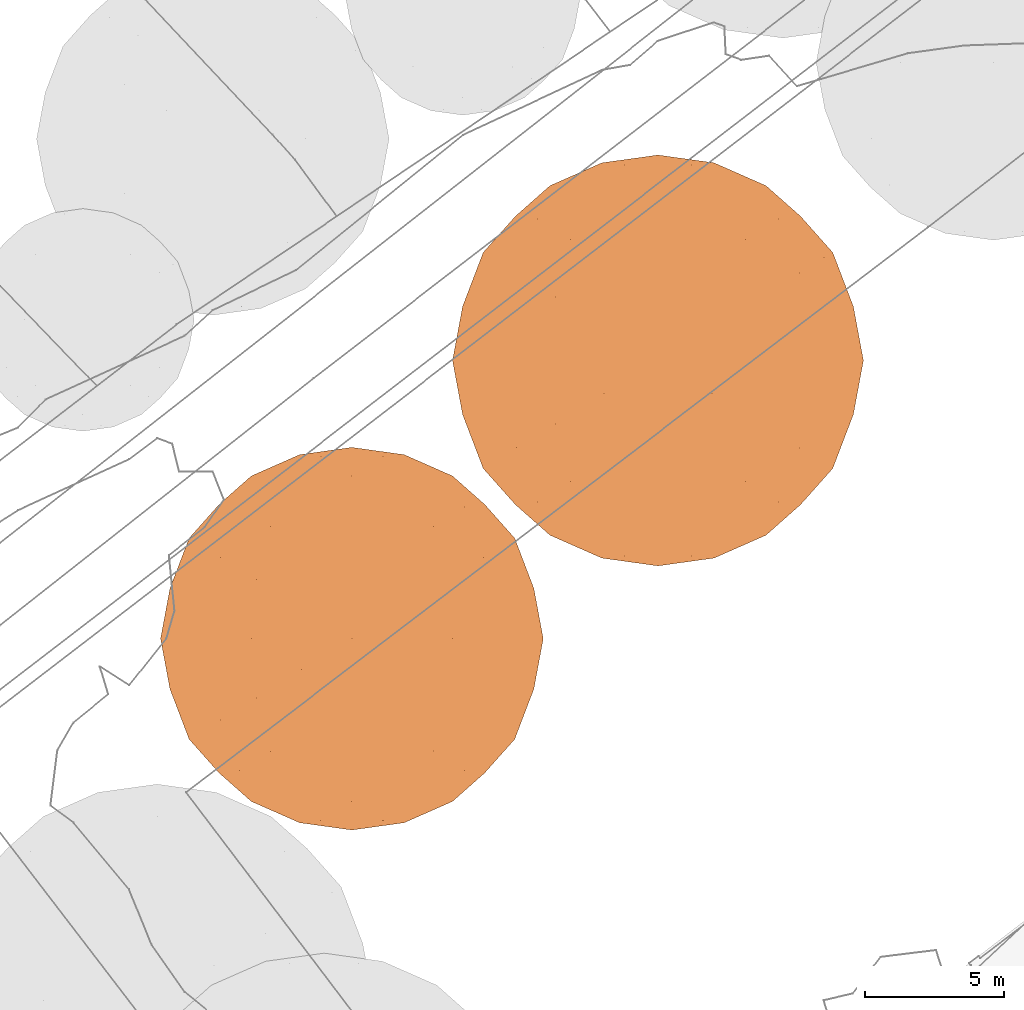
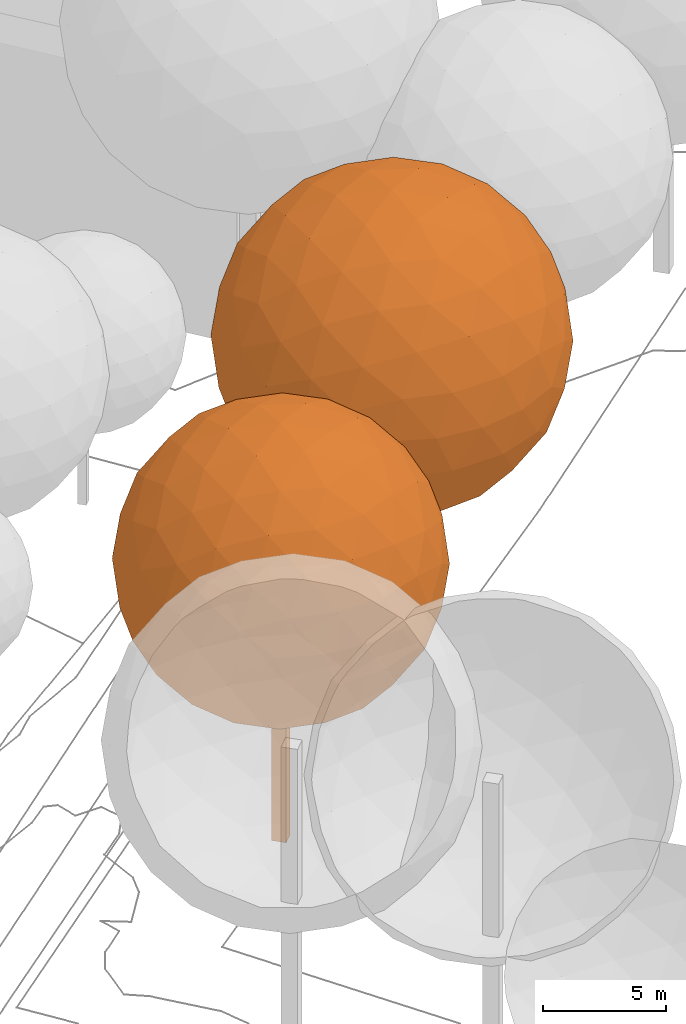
# Not in any storey, part 294 of 494: 2 proxies.
"""IFC2X3 model written with IfcOpenShell, lengths in metres."""

from ifc_helpers import new_model, si_unit, frame, origin_with_axes, place, context, subcontext, project, faceted_brep, element, save


model = new_model("IFC2X3")

# Units and contexts
model_context = context("Model", 3, precision=1e-05, world=origin_with_axes())
body_context = subcontext(model_context, "Body", "Model", "MODEL_VIEW")
ifc_project = project(units=[si_unit("AREAUNIT", "SQUARE_METRE"), si_unit("LENGTHUNIT", "METRE")], contexts=[model_context])

# Proxies
proxy_1_placement = place(None, frame((209.6777320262, 139.1707389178, 533.5631111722), z_axis=(0.0, 0.0, 1.0), x_axis=(1.0, 0.0, 0.0)))
element("IfcBuildingElementProxy", 1, at=proxy_1_placement, Name="Tree TR4 CD147", ObjectType="NOTDEFINED", context=body_context, shape_type="Brep", body=[
    faceted_brep([(0.0, 0.4700776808, 0.0), (0.4700776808, 0.0, 0.0), (0.0, -0.4700776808, 0.0), (-0.4700776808, 0.0, 0.0), (0.0, -0.4700776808, 14.7679258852), (0.4700776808, 0.0, 14.7679258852), (0.0, 0.4700776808, 14.7679258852), (-0.4700776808, 0.0, 14.7679258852)], [[[0, 1, 2]], [[2, 3, 0]], [[4, 5, 6]], [[6, 7, 4]], [[4, 7, 2]], [[2, 7, 3]], [[7, 6, 3]], [[3, 6, 0]], [[5, 4, 1]], [[1, 4, 2]], [[6, 5, 0]], [[0, 5, 1]]]),
    faceted_brep([(-3.8819790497, 6.281174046, 14.7679258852), (-5.1228493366, 5.1838849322, 15.9539530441), (-3.2038170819, 6.3699120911, 16.6869581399), (-5.9737515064, 3.6919814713, 17.0496959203), (-4.3401845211, 5.0815765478, 17.9085129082), (-2.2817700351, 5.9737515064, 18.4599073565), (-6.3699120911, 1.9190322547, 17.9717429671), (-5.0815765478, 3.140587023, 19.1081104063), (-6.281174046, 0.0, 18.6499049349), (-5.1838849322, 1.1860271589, 19.8907752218), (-3.6919814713, 2.2817700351, 20.7416773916), (-3.140587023, 4.3401845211, 19.849502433), (-1.1860271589, 5.1228493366, 19.9518108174), (-1.9190322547, 3.2038170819, 21.1378379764), (0.0, 3.8819790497, 21.0490999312), (-2.0177899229, 7.1029171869, 14.7679258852), (-1.1995974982, 7.0225660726, 16.70891541), (0.0, 7.3839629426, 14.7679258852), (0.0, 6.281174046, 18.6499049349), (1.1860271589, 5.1228493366, 19.9518108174), (2.2817700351, 5.9737515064, 18.4599073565), (1.1995974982, 7.0225660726, 16.70891541), (2.0177899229, 7.1029171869, 14.7679258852), (3.2038170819, 6.3699120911, 16.6869581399), (3.8819790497, 6.281174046, 14.7679258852), (-3.2038170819, 6.3699120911, 12.8488936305), (-1.1995974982, 7.0225660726, 12.8269363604), (-2.2817700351, 5.9737515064, 11.0759444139), (1.1995974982, 7.0225660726, 12.8269363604), (3.2038170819, 6.3699120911, 12.8488936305), (2.2817700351, 5.9737515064, 11.0759444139), (0.0, 6.281174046, 10.8859468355), (-1.1860271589, 5.1228493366, 9.584040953), (1.1860271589, 5.1228493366, 9.584040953), (0.0, 3.8819790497, 8.4867518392), (-5.1228493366, 5.1838849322, 13.5818987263), (-4.3401845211, 5.0815765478, 11.6273388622), (-5.9737515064, 3.6919814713, 12.4861558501), (-3.140587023, 4.3401845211, 9.6863493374), (-1.9190322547, 3.2038170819, 8.3980137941), (-3.6919814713, 2.2817700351, 8.7941743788), (-5.0815765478, 3.140587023, 10.4277413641), (-6.3699120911, 1.9190322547, 11.5641088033), (-5.1838849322, 1.1860271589, 9.6450765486), (-6.281174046, 0.0, 10.8859468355), (-6.281174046, 3.8819790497, 14.7679258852), (-7.0225660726, 1.9409895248, 13.5683283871), (-7.1029171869, 0.0, 12.7501359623), (-7.3839629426, 0.0, 14.7679258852), (-7.0225660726, 1.9409895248, 15.9675233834), (-7.1029171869, 0.0, 16.7857158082), (5.1228493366, 5.1838849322, 15.9539530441), (4.3401845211, 5.0815765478, 17.9085129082), (5.9737515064, 3.6919814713, 17.0496959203), (3.140587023, 4.3401845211, 19.849502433), (1.9190322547, 3.2038170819, 21.1378379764), (3.6919814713, 2.2817700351, 20.7416773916), (5.0815765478, 3.140587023, 19.1081104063), (6.3699120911, 1.9190322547, 17.9717429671), (5.1838849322, 1.1860271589, 19.8907752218), (6.281174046, 0.0, 18.6499049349), (0.0, 2.0177899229, 21.8708430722), (-1.9409895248, 1.1995974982, 21.7904919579), (0.0, 0.0, 22.1518888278), (-3.8819790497, 0.0, 21.0490999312), (-5.1838849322, -1.1860271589, 19.8907752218), (-3.6919814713, -2.2817700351, 20.7416773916), (-1.9409895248, -1.1995974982, 21.7904919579), (0.0, -2.0177899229, 21.8708430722), (-1.9190322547, -3.2038170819, 21.1378379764), (0.0, -3.8819790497, 21.0490999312), (-6.3699120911, -1.9190322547, 17.9717429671), (-7.0225660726, -1.9409895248, 15.9675233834), (-5.9737515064, -3.6919814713, 17.0496959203), (-7.0225660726, -1.9409895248, 13.5683283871), (-6.3699120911, -1.9190322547, 11.5641088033), (-5.9737515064, -3.6919814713, 12.4861558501), (-6.281174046, -3.8819790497, 14.7679258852), (-5.1228493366, -5.1838849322, 15.9539530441), (-5.1228493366, -5.1838849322, 13.5818987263), (-3.8819790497, -6.281174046, 14.7679258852), (-5.1838849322, -1.1860271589, 9.6450765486), (-3.8819790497, 0.0, 8.4867518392), (-3.6919814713, -2.2817700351, 8.7941743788), (-1.9409895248, 1.1995974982, 7.7453598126), (0.0, 2.0177899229, 7.6650086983), (0.0, 0.0, 7.3839629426), (-1.9409895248, -1.1995974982, 7.7453598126), (-1.9190322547, -3.2038170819, 8.3980137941), (0.0, -2.0177899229, 7.6650086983), (0.0, -3.8819790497, 8.4867518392), (1.9190322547, 3.2038170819, 8.3980137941), (3.140587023, 4.3401845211, 9.6863493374), (3.6919814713, 2.2817700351, 8.7941743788), (4.3401845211, 5.0815765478, 11.6273388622), (5.1228493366, 5.1838849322, 13.5818987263), (5.9737515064, 3.6919814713, 12.4861558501), (5.0815765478, 3.140587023, 10.4277413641), (5.1838849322, 1.1860271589, 9.6450765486), (6.3699120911, 1.9190322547, 11.5641088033), (6.281174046, 0.0, 10.8859468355), (3.8819790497, -6.281174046, 14.7679258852), (5.1228493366, -5.1838849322, 15.9539530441), (3.2038170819, -6.3699120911, 16.6869581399), (5.9737515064, -3.6919814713, 17.0496959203), (4.3401845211, -5.0815765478, 17.9085129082), (2.2817700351, -5.9737515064, 18.4599073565), (6.3699120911, -1.9190322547, 17.9717429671), (5.0815765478, -3.140587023, 19.1081104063), (5.1838849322, -1.1860271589, 19.8907752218), (3.6919814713, -2.2817700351, 20.7416773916), (3.140587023, -4.3401845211, 19.849502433), (1.1860271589, -5.1228493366, 19.9518108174), (1.9190322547, -3.2038170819, 21.1378379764), (2.0177899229, -7.1029171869, 14.7679258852), (1.1995974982, -7.0225660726, 16.70891541), (0.0, -7.3839629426, 14.7679258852), (0.0, -6.281174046, 18.6499049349), (-1.1860271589, -5.1228493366, 19.9518108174), (-2.2817700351, -5.9737515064, 18.4599073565), (-1.1995974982, -7.0225660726, 16.70891541), (-2.0177899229, -7.1029171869, 14.7679258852), (-3.2038170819, -6.3699120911, 16.6869581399), (3.2038170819, -6.3699120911, 12.8488936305), (1.1995974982, -7.0225660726, 12.8269363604), (2.2817700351, -5.9737515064, 11.0759444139), (-1.1995974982, -7.0225660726, 12.8269363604), (-3.2038170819, -6.3699120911, 12.8488936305), (-2.2817700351, -5.9737515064, 11.0759444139), (0.0, -6.281174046, 10.8859468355), (1.1860271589, -5.1228493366, 9.584040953), (-1.1860271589, -5.1228493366, 9.584040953), (5.1228493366, -5.1838849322, 13.5818987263), (4.3401845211, -5.0815765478, 11.6273388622), (5.9737515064, -3.6919814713, 12.4861558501), (3.140587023, -4.3401845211, 9.6863493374), (1.9190322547, -3.2038170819, 8.3980137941), (3.6919814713, -2.2817700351, 8.7941743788), (5.0815765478, -3.140587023, 10.4277413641), (6.3699120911, -1.9190322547, 11.5641088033), (5.1838849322, -1.1860271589, 9.6450765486), (6.281174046, -3.8819790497, 14.7679258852), (7.0225660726, -1.9409895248, 13.5683283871), (7.1029171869, 0.0, 12.7501359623), (7.3839629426, 0.0, 14.7679258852), (7.0225660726, -1.9409895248, 15.9675233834), (7.1029171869, 0.0, 16.7857158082), (1.9409895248, -1.1995974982, 21.7904919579), (3.8819790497, 0.0, 21.0490999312), (1.9409895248, 1.1995974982, 21.7904919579), (-4.3401845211, -5.0815765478, 17.9085129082), (-3.140587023, -4.3401845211, 19.849502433), (-5.0815765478, -3.140587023, 19.1081104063), (-3.140587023, -4.3401845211, 9.6863493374), (-4.3401845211, -5.0815765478, 11.6273388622), (-5.0815765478, -3.140587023, 10.4277413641), (3.8819790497, 0.0, 8.4867518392), (1.9409895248, -1.1995974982, 7.7453598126), (1.9409895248, 1.1995974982, 7.7453598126), (7.0225660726, 1.9409895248, 15.9675233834), (7.0225660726, 1.9409895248, 13.5683283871), (6.281174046, 3.8819790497, 14.7679258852)], [[[0, 1, 2]], [[1, 3, 4]], [[2, 4, 5]], [[1, 4, 2]], [[3, 6, 7]], [[6, 8, 9]], [[7, 9, 10]], [[6, 9, 7]], [[5, 11, 12]], [[11, 10, 13]], [[12, 13, 14]], [[11, 13, 12]], [[3, 7, 4]], [[7, 10, 11]], [[4, 11, 5]], [[7, 11, 4]], [[0, 2, 15]], [[2, 5, 16]], [[15, 16, 17]], [[2, 16, 15]], [[5, 12, 18]], [[12, 14, 19]], [[18, 19, 20]], [[12, 19, 18]], [[17, 21, 22]], [[21, 20, 23]], [[22, 23, 24]], [[21, 23, 22]], [[5, 18, 16]], [[18, 20, 21]], [[16, 21, 17]], [[18, 21, 16]], [[0, 15, 25]], [[15, 17, 26]], [[25, 26, 27]], [[15, 26, 25]], [[17, 22, 28]], [[22, 24, 29]], [[28, 29, 30]], [[22, 29, 28]], [[27, 31, 32]], [[31, 30, 33]], [[32, 33, 34]], [[31, 33, 32]], [[17, 28, 26]], [[28, 30, 31]], [[26, 31, 27]], [[28, 31, 26]], [[0, 25, 35]], [[25, 27, 36]], [[35, 36, 37]], [[25, 36, 35]], [[27, 32, 38]], [[32, 34, 39]], [[38, 39, 40]], [[32, 39, 38]], [[37, 41, 42]], [[41, 40, 43]], [[42, 43, 44]], [[41, 43, 42]], [[27, 38, 36]], [[38, 40, 41]], [[36, 41, 37]], [[38, 41, 36]], [[0, 35, 1]], [[35, 37, 45]], [[1, 45, 3]], [[35, 45, 1]], [[37, 42, 46]], [[42, 44, 47]], [[46, 47, 48]], [[42, 47, 46]], [[3, 49, 6]], [[49, 48, 50]], [[6, 50, 8]], [[49, 50, 6]], [[37, 46, 45]], [[46, 48, 49]], [[45, 49, 3]], [[46, 49, 45]], [[24, 23, 51]], [[23, 20, 52]], [[51, 52, 53]], [[23, 52, 51]], [[20, 19, 54]], [[19, 14, 55]], [[54, 55, 56]], [[19, 55, 54]], [[53, 57, 58]], [[57, 56, 59]], [[58, 59, 60]], [[57, 59, 58]], [[20, 54, 52]], [[54, 56, 57]], [[52, 57, 53]], [[54, 57, 52]], [[14, 13, 61]], [[13, 10, 62]], [[61, 62, 63]], [[13, 62, 61]], [[10, 9, 64]], [[9, 8, 65]], [[64, 65, 66]], [[9, 65, 64]], [[63, 67, 68]], [[67, 66, 69]], [[68, 69, 70]], [[67, 69, 68]], [[10, 64, 62]], [[64, 66, 67]], [[62, 67, 63]], [[64, 67, 62]], [[8, 50, 71]], [[50, 48, 72]], [[71, 72, 73]], [[50, 72, 71]], [[48, 47, 74]], [[47, 44, 75]], [[74, 75, 76]], [[47, 75, 74]], [[73, 77, 78]], [[77, 76, 79]], [[78, 79, 80]], [[77, 79, 78]], [[48, 74, 72]], [[74, 76, 77]], [[72, 77, 73]], [[74, 77, 72]], [[44, 43, 81]], [[43, 40, 82]], [[81, 82, 83]], [[43, 82, 81]], [[40, 39, 84]], [[39, 34, 85]], [[84, 85, 86]], [[39, 85, 84]], [[83, 87, 88]], [[87, 86, 89]], [[88, 89, 90]], [[87, 89, 88]], [[40, 84, 82]], [[84, 86, 87]], [[82, 87, 83]], [[84, 87, 82]], [[34, 33, 91]], [[33, 30, 92]], [[91, 92, 93]], [[33, 92, 91]], [[30, 29, 94]], [[29, 24, 95]], [[94, 95, 96]], [[29, 95, 94]], [[93, 97, 98]], [[97, 96, 99]], [[98, 99, 100]], [[97, 99, 98]], [[30, 94, 92]], [[94, 96, 97]], [[92, 97, 93]], [[94, 97, 92]], [[101, 102, 103]], [[102, 104, 105]], [[103, 105, 106]], [[102, 105, 103]], [[104, 107, 108]], [[107, 60, 109]], [[108, 109, 110]], [[107, 109, 108]], [[106, 111, 112]], [[111, 110, 113]], [[112, 113, 70]], [[111, 113, 112]], [[104, 108, 105]], [[108, 110, 111]], [[105, 111, 106]], [[108, 111, 105]], [[101, 103, 114]], [[103, 106, 115]], [[114, 115, 116]], [[103, 115, 114]], [[106, 112, 117]], [[112, 70, 118]], [[117, 118, 119]], [[112, 118, 117]], [[116, 120, 121]], [[120, 119, 122]], [[121, 122, 80]], [[120, 122, 121]], [[106, 117, 115]], [[117, 119, 120]], [[115, 120, 116]], [[117, 120, 115]], [[101, 114, 123]], [[114, 116, 124]], [[123, 124, 125]], [[114, 124, 123]], [[116, 121, 126]], [[121, 80, 127]], [[126, 127, 128]], [[121, 127, 126]], [[125, 129, 130]], [[129, 128, 131]], [[130, 131, 90]], [[129, 131, 130]], [[116, 126, 124]], [[126, 128, 129]], [[124, 129, 125]], [[126, 129, 124]], [[101, 123, 132]], [[123, 125, 133]], [[132, 133, 134]], [[123, 133, 132]], [[125, 130, 135]], [[130, 90, 136]], [[135, 136, 137]], [[130, 136, 135]], [[134, 138, 139]], [[138, 137, 140]], [[139, 140, 100]], [[138, 140, 139]], [[125, 135, 133]], [[135, 137, 138]], [[133, 138, 134]], [[135, 138, 133]], [[101, 132, 102]], [[132, 134, 141]], [[102, 141, 104]], [[132, 141, 102]], [[134, 139, 142]], [[139, 100, 143]], [[142, 143, 144]], [[139, 143, 142]], [[104, 145, 107]], [[145, 144, 146]], [[107, 146, 60]], [[145, 146, 107]], [[134, 142, 141]], [[142, 144, 145]], [[141, 145, 104]], [[142, 145, 141]], [[70, 113, 68]], [[113, 110, 147]], [[68, 147, 63]], [[113, 147, 68]], [[110, 109, 148]], [[109, 60, 59]], [[148, 59, 56]], [[109, 59, 148]], [[63, 149, 61]], [[149, 56, 55]], [[61, 55, 14]], [[149, 55, 61]], [[110, 148, 147]], [[148, 56, 149]], [[147, 149, 63]], [[148, 149, 147]], [[80, 122, 78]], [[122, 119, 150]], [[78, 150, 73]], [[122, 150, 78]], [[119, 118, 151]], [[118, 70, 69]], [[151, 69, 66]], [[118, 69, 151]], [[73, 152, 71]], [[152, 66, 65]], [[71, 65, 8]], [[152, 65, 71]], [[119, 151, 150]], [[151, 66, 152]], [[150, 152, 73]], [[151, 152, 150]], [[90, 131, 88]], [[131, 128, 153]], [[88, 153, 83]], [[131, 153, 88]], [[128, 127, 154]], [[127, 80, 79]], [[154, 79, 76]], [[127, 79, 154]], [[83, 155, 81]], [[155, 76, 75]], [[81, 75, 44]], [[155, 75, 81]], [[128, 154, 153]], [[154, 76, 155]], [[153, 155, 83]], [[154, 155, 153]], [[100, 140, 98]], [[140, 137, 156]], [[98, 156, 93]], [[140, 156, 98]], [[137, 136, 157]], [[136, 90, 89]], [[157, 89, 86]], [[136, 89, 157]], [[93, 158, 91]], [[158, 86, 85]], [[91, 85, 34]], [[158, 85, 91]], [[137, 157, 156]], [[157, 86, 158]], [[156, 158, 93]], [[157, 158, 156]], [[60, 146, 58]], [[146, 144, 159]], [[58, 159, 53]], [[146, 159, 58]], [[144, 143, 160]], [[143, 100, 99]], [[160, 99, 96]], [[143, 99, 160]], [[53, 161, 51]], [[161, 96, 95]], [[51, 95, 24]], [[161, 95, 51]], [[144, 160, 159]], [[160, 96, 161]], [[159, 161, 53]], [[160, 161, 159]]]),
])
proxy_2_placement = place(None, frame((198.6777320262, 129.1707392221, 533.3876960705), z_axis=(0.0, 0.0, 1.0), x_axis=(1.0, 0.0, 0.0)))
element("IfcBuildingElementProxy", 2, at=proxy_2_placement, Name="Tree TR4 CD137", ObjectType="NOTDEFINED", context=body_context, shape_type="Brep", body=[
    faceted_brep([(0.0, 0.4377674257, 0.0), (0.4377674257, 0.0, 0.0), (0.0, -0.4377674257, 0.0), (-0.4377674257, 0.0, 0.0), (0.0, -0.4377674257, 13.7528692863), (0.4377674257, 0.0, 13.7528692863), (0.0, 0.4377674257, 13.7528692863), (-0.4377674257, 0.0, 13.7528692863)], [[[0, 1, 2]], [[2, 3, 0]], [[4, 5, 6]], [[6, 7, 4]], [[4, 7, 2]], [[2, 7, 3]], [[7, 6, 3]], [[3, 6, 0]], [[5, 4, 1]], [[1, 4, 2]], [[6, 5, 0]], [[0, 5, 1]]]),
    faceted_brep([(-3.6151556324, 5.8494446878, 13.7528692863), (-4.7707361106, 4.827576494, 14.8573762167), (-2.9836063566, 5.9320834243, 15.5399990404), (-5.563152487, 3.4382173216, 15.8778044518), (-4.0418668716, 4.7323001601, 16.6775916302), (-2.1249351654, 5.563152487, 17.1910866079), (-5.9320834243, 1.7871297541, 16.7364756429), (-4.7323001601, 2.9247223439, 17.7947361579), (-5.8494446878, 0.0, 17.3680249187), (-4.827576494, 1.1045069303, 18.523605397), (-3.4382173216, 2.1249351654, 19.3160217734), (-2.9247223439, 4.0418668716, 18.4851694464), (-1.1045069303, 4.7707361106, 18.5804457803), (-1.7871297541, 2.9836063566, 19.6849527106), (0.0, 3.6151556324, 19.6023139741), (-1.8790994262, 6.6147062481, 13.7528692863), (-1.1171445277, 6.5398779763, 15.5604471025), (0.0, 6.8764346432, 13.7528692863), (0.0, 5.8494446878, 17.3680249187), (1.1045069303, 4.7707361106, 18.5804457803), (2.1249351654, 5.563152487, 17.1910866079), (1.1171445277, 6.5398779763, 15.5604471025), (1.8790994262, 6.6147062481, 13.7528692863), (2.9836063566, 5.9320834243, 15.5399990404), (3.6151556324, 5.8494446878, 13.7528692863), (-2.9836063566, 5.9320834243, 11.9657395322), (-1.1171445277, 6.5398779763, 11.9452914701), (-2.1249351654, 5.563152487, 10.3146519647), (1.1171445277, 6.5398779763, 11.9452914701), (2.9836063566, 5.9320834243, 11.9657395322), (2.1249351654, 5.563152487, 10.3146519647), (0.0, 5.8494446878, 10.137713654), (-1.1045069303, 4.7707361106, 8.9252927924), (1.1045069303, 4.7707361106, 8.9252927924), (0.0, 3.6151556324, 7.9034245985), (-4.7707361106, 4.827576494, 12.648362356), (-4.0418668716, 4.7323001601, 10.8281469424), (-5.563152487, 3.4382173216, 11.6279341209), (-2.9247223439, 4.0418668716, 9.0205691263), (-1.7871297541, 2.9836063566, 7.820785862), (-3.4382173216, 2.1249351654, 8.1897167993), (-4.7323001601, 2.9247223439, 9.7110024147), (-5.9320834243, 1.7871297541, 10.7692629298), (-4.827576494, 1.1045069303, 8.9821331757), (-5.8494446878, 0.0, 10.137713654), (-5.8494446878, 3.6151556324, 13.7528692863), (-6.5398779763, 1.8075778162, 12.6357247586), (-6.6147062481, 0.0, 11.8737698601), (-6.8764346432, 0.0, 13.7528692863), (-6.5398779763, 1.8075778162, 14.870013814), (-6.6147062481, 0.0, 15.6319687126), (4.7707361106, 4.827576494, 14.8573762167), (4.0418668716, 4.7323001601, 16.6775916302), (5.563152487, 3.4382173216, 15.8778044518), (2.9247223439, 4.0418668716, 18.4851694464), (1.7871297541, 2.9836063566, 19.6849527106), (3.4382173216, 2.1249351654, 19.3160217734), (4.7323001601, 2.9247223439, 17.7947361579), (5.9320834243, 1.7871297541, 16.7364756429), (4.827576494, 1.1045069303, 18.523605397), (5.8494446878, 0.0, 17.3680249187), (0.0, 1.8790994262, 20.3675755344), (-1.8075778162, 1.1171445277, 20.2927472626), (0.0, 0.0, 20.6293039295), (-3.6151556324, 0.0, 19.6023139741), (-4.827576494, -1.1045069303, 18.523605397), (-3.4382173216, -2.1249351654, 19.3160217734), (-1.8075778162, -1.1171445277, 20.2927472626), (0.0, -1.8790994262, 20.3675755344), (-1.7871297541, -2.9836063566, 19.6849527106), (0.0, -3.6151556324, 19.6023139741), (-5.9320834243, -1.7871297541, 16.7364756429), (-6.5398779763, -1.8075778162, 14.870013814), (-5.563152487, -3.4382173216, 15.8778044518), (-6.5398779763, -1.8075778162, 12.6357247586), (-5.9320834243, -1.7871297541, 10.7692629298), (-5.563152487, -3.4382173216, 11.6279341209), (-5.8494446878, -3.6151556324, 13.7528692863), (-4.7707361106, -4.827576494, 14.8573762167), (-4.7707361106, -4.827576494, 12.648362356), (-3.6151556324, -5.8494446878, 13.7528692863), (-4.827576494, -1.1045069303, 8.9821331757), (-3.6151556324, 0.0, 7.9034245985), (-3.4382173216, -2.1249351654, 8.1897167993), (-1.8075778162, 1.1171445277, 7.2129913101), (0.0, 1.8790994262, 7.1381630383), (0.0, 0.0, 6.8764346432), (-1.8075778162, -1.1171445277, 7.2129913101), (-1.7871297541, -2.9836063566, 7.820785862), (0.0, -1.8790994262, 7.1381630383), (0.0, -3.6151556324, 7.9034245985), (1.7871297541, 2.9836063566, 7.820785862), (2.9247223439, 4.0418668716, 9.0205691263), (3.4382173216, 2.1249351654, 8.1897167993), (4.0418668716, 4.7323001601, 10.8281469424), (4.7707361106, 4.827576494, 12.648362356), (5.563152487, 3.4382173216, 11.6279341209), (4.7323001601, 2.9247223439, 9.7110024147), (4.827576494, 1.1045069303, 8.9821331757), (5.9320834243, 1.7871297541, 10.7692629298), (5.8494446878, 0.0, 10.137713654), (3.6151556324, -5.8494446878, 13.7528692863), (4.7707361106, -4.827576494, 14.8573762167), (2.9836063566, -5.9320834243, 15.5399990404), (5.563152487, -3.4382173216, 15.8778044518), (4.0418668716, -4.7323001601, 16.6775916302), (2.1249351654, -5.563152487, 17.1910866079), (5.9320834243, -1.7871297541, 16.7364756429), (4.7323001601, -2.9247223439, 17.7947361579), (4.827576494, -1.1045069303, 18.523605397), (3.4382173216, -2.1249351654, 19.3160217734), (2.9247223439, -4.0418668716, 18.4851694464), (1.1045069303, -4.7707361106, 18.5804457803), (1.7871297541, -2.9836063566, 19.6849527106), (1.8790994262, -6.6147062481, 13.7528692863), (1.1171445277, -6.5398779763, 15.5604471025), (0.0, -6.8764346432, 13.7528692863), (0.0, -5.8494446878, 17.3680249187), (-1.1045069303, -4.7707361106, 18.5804457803), (-2.1249351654, -5.563152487, 17.1910866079), (-1.1171445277, -6.5398779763, 15.5604471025), (-1.8790994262, -6.6147062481, 13.7528692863), (-2.9836063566, -5.9320834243, 15.5399990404), (2.9836063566, -5.9320834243, 11.9657395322), (1.1171445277, -6.5398779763, 11.9452914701), (2.1249351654, -5.563152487, 10.3146519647), (-1.1171445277, -6.5398779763, 11.9452914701), (-2.9836063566, -5.9320834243, 11.9657395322), (-2.1249351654, -5.563152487, 10.3146519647), (0.0, -5.8494446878, 10.137713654), (1.1045069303, -4.7707361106, 8.9252927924), (-1.1045069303, -4.7707361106, 8.9252927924), (4.7707361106, -4.827576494, 12.648362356), (4.0418668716, -4.7323001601, 10.8281469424), (5.563152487, -3.4382173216, 11.6279341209), (2.9247223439, -4.0418668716, 9.0205691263), (1.7871297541, -2.9836063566, 7.820785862), (3.4382173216, -2.1249351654, 8.1897167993), (4.7323001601, -2.9247223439, 9.7110024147), (5.9320834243, -1.7871297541, 10.7692629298), (4.827576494, -1.1045069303, 8.9821331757), (5.8494446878, -3.6151556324, 13.7528692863), (6.5398779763, -1.8075778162, 12.6357247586), (6.6147062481, 0.0, 11.8737698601), (6.8764346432, 0.0, 13.7528692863), (6.5398779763, -1.8075778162, 14.870013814), (6.6147062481, 0.0, 15.6319687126), (1.8075778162, -1.1171445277, 20.2927472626), (3.6151556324, 0.0, 19.6023139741), (1.8075778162, 1.1171445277, 20.2927472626), (-4.0418668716, -4.7323001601, 16.6775916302), (-2.9247223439, -4.0418668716, 18.4851694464), (-4.7323001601, -2.9247223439, 17.7947361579), (-2.9247223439, -4.0418668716, 9.0205691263), (-4.0418668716, -4.7323001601, 10.8281469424), (-4.7323001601, -2.9247223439, 9.7110024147), (3.6151556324, 0.0, 7.9034245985), (1.8075778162, -1.1171445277, 7.2129913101), (1.8075778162, 1.1171445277, 7.2129913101), (6.5398779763, 1.8075778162, 14.870013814), (6.5398779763, 1.8075778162, 12.6357247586), (5.8494446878, 3.6151556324, 13.7528692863)], [[[0, 1, 2]], [[1, 3, 4]], [[2, 4, 5]], [[1, 4, 2]], [[3, 6, 7]], [[6, 8, 9]], [[7, 9, 10]], [[6, 9, 7]], [[5, 11, 12]], [[11, 10, 13]], [[12, 13, 14]], [[11, 13, 12]], [[3, 7, 4]], [[7, 10, 11]], [[4, 11, 5]], [[7, 11, 4]], [[0, 2, 15]], [[2, 5, 16]], [[15, 16, 17]], [[2, 16, 15]], [[5, 12, 18]], [[12, 14, 19]], [[18, 19, 20]], [[12, 19, 18]], [[17, 21, 22]], [[21, 20, 23]], [[22, 23, 24]], [[21, 23, 22]], [[5, 18, 16]], [[18, 20, 21]], [[16, 21, 17]], [[18, 21, 16]], [[0, 15, 25]], [[15, 17, 26]], [[25, 26, 27]], [[15, 26, 25]], [[17, 22, 28]], [[22, 24, 29]], [[28, 29, 30]], [[22, 29, 28]], [[27, 31, 32]], [[31, 30, 33]], [[32, 33, 34]], [[31, 33, 32]], [[17, 28, 26]], [[28, 30, 31]], [[26, 31, 27]], [[28, 31, 26]], [[0, 25, 35]], [[25, 27, 36]], [[35, 36, 37]], [[25, 36, 35]], [[27, 32, 38]], [[32, 34, 39]], [[38, 39, 40]], [[32, 39, 38]], [[37, 41, 42]], [[41, 40, 43]], [[42, 43, 44]], [[41, 43, 42]], [[27, 38, 36]], [[38, 40, 41]], [[36, 41, 37]], [[38, 41, 36]], [[0, 35, 1]], [[35, 37, 45]], [[1, 45, 3]], [[35, 45, 1]], [[37, 42, 46]], [[42, 44, 47]], [[46, 47, 48]], [[42, 47, 46]], [[3, 49, 6]], [[49, 48, 50]], [[6, 50, 8]], [[49, 50, 6]], [[37, 46, 45]], [[46, 48, 49]], [[45, 49, 3]], [[46, 49, 45]], [[24, 23, 51]], [[23, 20, 52]], [[51, 52, 53]], [[23, 52, 51]], [[20, 19, 54]], [[19, 14, 55]], [[54, 55, 56]], [[19, 55, 54]], [[53, 57, 58]], [[57, 56, 59]], [[58, 59, 60]], [[57, 59, 58]], [[20, 54, 52]], [[54, 56, 57]], [[52, 57, 53]], [[54, 57, 52]], [[14, 13, 61]], [[13, 10, 62]], [[61, 62, 63]], [[13, 62, 61]], [[10, 9, 64]], [[9, 8, 65]], [[64, 65, 66]], [[9, 65, 64]], [[63, 67, 68]], [[67, 66, 69]], [[68, 69, 70]], [[67, 69, 68]], [[10, 64, 62]], [[64, 66, 67]], [[62, 67, 63]], [[64, 67, 62]], [[8, 50, 71]], [[50, 48, 72]], [[71, 72, 73]], [[50, 72, 71]], [[48, 47, 74]], [[47, 44, 75]], [[74, 75, 76]], [[47, 75, 74]], [[73, 77, 78]], [[77, 76, 79]], [[78, 79, 80]], [[77, 79, 78]], [[48, 74, 72]], [[74, 76, 77]], [[72, 77, 73]], [[74, 77, 72]], [[44, 43, 81]], [[43, 40, 82]], [[81, 82, 83]], [[43, 82, 81]], [[40, 39, 84]], [[39, 34, 85]], [[84, 85, 86]], [[39, 85, 84]], [[83, 87, 88]], [[87, 86, 89]], [[88, 89, 90]], [[87, 89, 88]], [[40, 84, 82]], [[84, 86, 87]], [[82, 87, 83]], [[84, 87, 82]], [[34, 33, 91]], [[33, 30, 92]], [[91, 92, 93]], [[33, 92, 91]], [[30, 29, 94]], [[29, 24, 95]], [[94, 95, 96]], [[29, 95, 94]], [[93, 97, 98]], [[97, 96, 99]], [[98, 99, 100]], [[97, 99, 98]], [[30, 94, 92]], [[94, 96, 97]], [[92, 97, 93]], [[94, 97, 92]], [[101, 102, 103]], [[102, 104, 105]], [[103, 105, 106]], [[102, 105, 103]], [[104, 107, 108]], [[107, 60, 109]], [[108, 109, 110]], [[107, 109, 108]], [[106, 111, 112]], [[111, 110, 113]], [[112, 113, 70]], [[111, 113, 112]], [[104, 108, 105]], [[108, 110, 111]], [[105, 111, 106]], [[108, 111, 105]], [[101, 103, 114]], [[103, 106, 115]], [[114, 115, 116]], [[103, 115, 114]], [[106, 112, 117]], [[112, 70, 118]], [[117, 118, 119]], [[112, 118, 117]], [[116, 120, 121]], [[120, 119, 122]], [[121, 122, 80]], [[120, 122, 121]], [[106, 117, 115]], [[117, 119, 120]], [[115, 120, 116]], [[117, 120, 115]], [[101, 114, 123]], [[114, 116, 124]], [[123, 124, 125]], [[114, 124, 123]], [[116, 121, 126]], [[121, 80, 127]], [[126, 127, 128]], [[121, 127, 126]], [[125, 129, 130]], [[129, 128, 131]], [[130, 131, 90]], [[129, 131, 130]], [[116, 126, 124]], [[126, 128, 129]], [[124, 129, 125]], [[126, 129, 124]], [[101, 123, 132]], [[123, 125, 133]], [[132, 133, 134]], [[123, 133, 132]], [[125, 130, 135]], [[130, 90, 136]], [[135, 136, 137]], [[130, 136, 135]], [[134, 138, 139]], [[138, 137, 140]], [[139, 140, 100]], [[138, 140, 139]], [[125, 135, 133]], [[135, 137, 138]], [[133, 138, 134]], [[135, 138, 133]], [[101, 132, 102]], [[132, 134, 141]], [[102, 141, 104]], [[132, 141, 102]], [[134, 139, 142]], [[139, 100, 143]], [[142, 143, 144]], [[139, 143, 142]], [[104, 145, 107]], [[145, 144, 146]], [[107, 146, 60]], [[145, 146, 107]], [[134, 142, 141]], [[142, 144, 145]], [[141, 145, 104]], [[142, 145, 141]], [[70, 113, 68]], [[113, 110, 147]], [[68, 147, 63]], [[113, 147, 68]], [[110, 109, 148]], [[109, 60, 59]], [[148, 59, 56]], [[109, 59, 148]], [[63, 149, 61]], [[149, 56, 55]], [[61, 55, 14]], [[149, 55, 61]], [[110, 148, 147]], [[148, 56, 149]], [[147, 149, 63]], [[148, 149, 147]], [[80, 122, 78]], [[122, 119, 150]], [[78, 150, 73]], [[122, 150, 78]], [[119, 118, 151]], [[118, 70, 69]], [[151, 69, 66]], [[118, 69, 151]], [[73, 152, 71]], [[152, 66, 65]], [[71, 65, 8]], [[152, 65, 71]], [[119, 151, 150]], [[151, 66, 152]], [[150, 152, 73]], [[151, 152, 150]], [[90, 131, 88]], [[131, 128, 153]], [[88, 153, 83]], [[131, 153, 88]], [[128, 127, 154]], [[127, 80, 79]], [[154, 79, 76]], [[127, 79, 154]], [[83, 155, 81]], [[155, 76, 75]], [[81, 75, 44]], [[155, 75, 81]], [[128, 154, 153]], [[154, 76, 155]], [[153, 155, 83]], [[154, 155, 153]], [[100, 140, 98]], [[140, 137, 156]], [[98, 156, 93]], [[140, 156, 98]], [[137, 136, 157]], [[136, 90, 89]], [[157, 89, 86]], [[136, 89, 157]], [[93, 158, 91]], [[158, 86, 85]], [[91, 85, 34]], [[158, 85, 91]], [[137, 157, 156]], [[157, 86, 158]], [[156, 158, 93]], [[157, 158, 156]], [[60, 146, 58]], [[146, 144, 159]], [[58, 159, 53]], [[146, 159, 58]], [[144, 143, 160]], [[143, 100, 99]], [[160, 99, 96]], [[143, 99, 160]], [[53, 161, 51]], [[161, 96, 95]], [[51, 95, 24]], [[161, 95, 51]], [[144, 160, 159]], [[160, 96, 161]], [[159, 161, 53]], [[160, 161, 159]]]),
])

save(model, "model.ifc")
